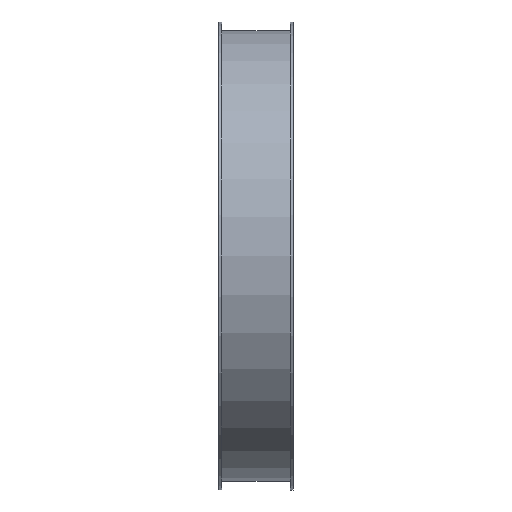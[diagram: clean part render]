
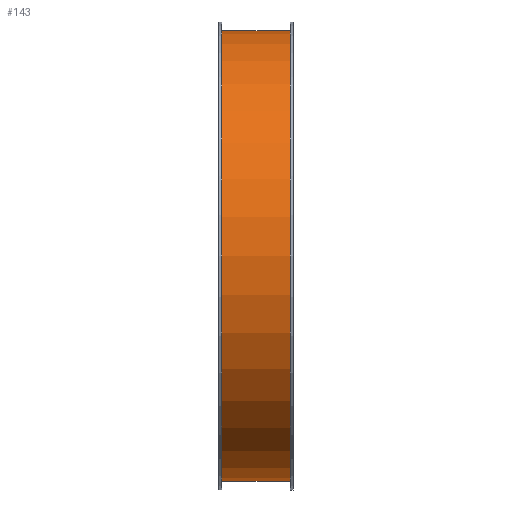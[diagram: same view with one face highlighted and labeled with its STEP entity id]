
A CAD part, front view. The second image highlights one B-rep face of the part: STEP entity #143.
In plain terms, the highlighted cylindrical face has radius 151.5 mm (diameter 303 mm), a full revolution.
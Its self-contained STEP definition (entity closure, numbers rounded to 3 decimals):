
#112=CARTESIAN_POINT('',(16.119,2.817,0.0));
#113=VERTEX_POINT('',#112);
#114=CARTESIAN_POINT('',(16.119,154.317,0.0));
#115=DIRECTION('',(-1.0,0.0,0.0));
#116=DIRECTION('',(0.0,-1.0,0.0));
#117=AXIS2_PLACEMENT_3D('',#114,#115,#116);
#118=CIRCLE('',#117,151.5);
#119=EDGE_CURVE('',#113,#113,#118,.T.);
#124=CARTESIAN_POINT('',(-6.881,154.317,0.0));
#125=DIRECTION('',(-1.0,0.,0.0));
#126=DIRECTION('',(0.0,-1.0,0.0));
#127=AXIS2_PLACEMENT_3D('',#124,#125,#126);
#128=CYLINDRICAL_SURFACE('',#127,151.5);
#129=CARTESIAN_POINT('',(-29.881,2.817,0.0));
#130=VERTEX_POINT('',#129);
#131=CARTESIAN_POINT('',(-29.881,154.317,0.0));
#132=DIRECTION('',(-1.0,0.0,0.0));
#133=DIRECTION('',(0.0,-1.0,0.0));
#134=AXIS2_PLACEMENT_3D('',#131,#132,#133);
#135=CIRCLE('',#134,151.5);
#136=EDGE_CURVE('',#130,#130,#135,.T.);
#137=ORIENTED_EDGE('',*,*,#136,.F.);
#138=EDGE_LOOP('',(#137));
#139=FACE_OUTER_BOUND('',#138,.T.);
#140=ORIENTED_EDGE('',*,*,#119,.T.);
#141=EDGE_LOOP('',(#140));
#142=FACE_BOUND('',#141,.T.);
#143=ADVANCED_FACE('',(#139,#142),#128,.T.);
